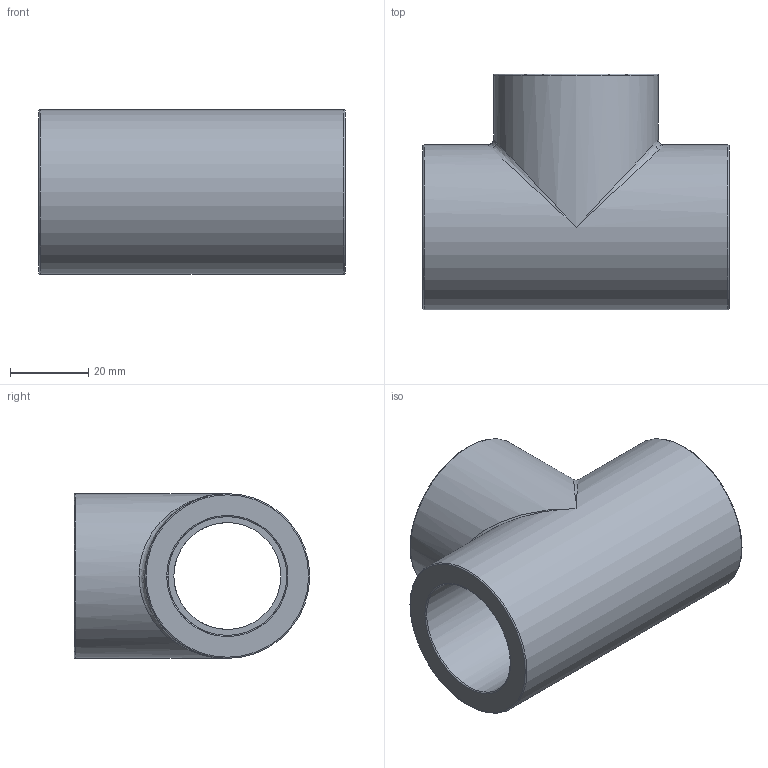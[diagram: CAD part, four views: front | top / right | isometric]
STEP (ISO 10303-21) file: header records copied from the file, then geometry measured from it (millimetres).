
FILE_DESCRIPTION(/* description */ ('PLASSON THREADED TEE PVC 1"'),/* implementation_level */ '2;1');
FILE_NAME(/* name */ 'C:\Dropbox\KIMPROJECTS-Inventor\99-16-3568-Processing\PVC Catalog 2017\050401\050401010.ipt.stp',/* time_stamp */ '2017-12-07T15:54:40+02:00',/* author */ ('KIM'),/* organization */ (''),/* preprocessor_version */ 'ST-DEVELOPER v15.6',/* originating_system */ 'Autodesk Inventor 2015',/* authorisation */ '');
FILE_SCHEMA (('AUTOMOTIVE_DESIGN { 1 0 10303 214 3 1 1 }'));
Length unit declared in the file: millimetre
Products named in the file (1): 050401010
Bounding box: 78 x 60 x 42 mm (x, y, z)
Volume: 66015.7 mm3; surface area: 23421.8 mm2
Topology: 1 solids, 1 shells, 20 faces, 54 edges, 30 vertices
Faces by surface type: cylinder 7, plane 6, torus 5, bspline 2
Full cylindrical faces by diameter (mm): 27.262 x2, 30.291 x3, 42 x2
Entity records: 590 total; most frequent: CARTESIAN_POINT 169, DIRECTION 92, ORIENTED_EDGE 56, AXIS2_PLACEMENT_3D 45, EDGE_LOOP 40, EDGE_CURVE 28, VERTEX_POINT 22, FACE_BOUND 20
